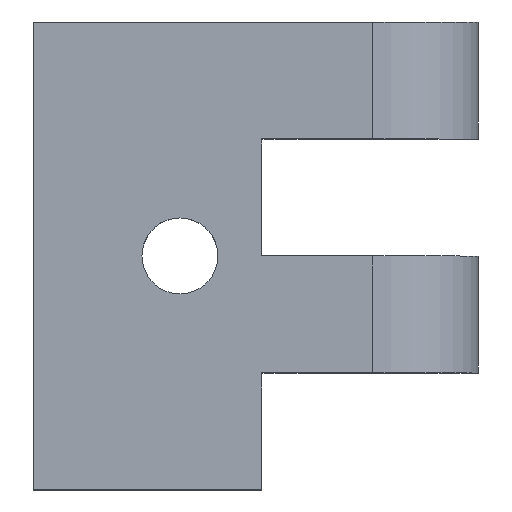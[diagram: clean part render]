
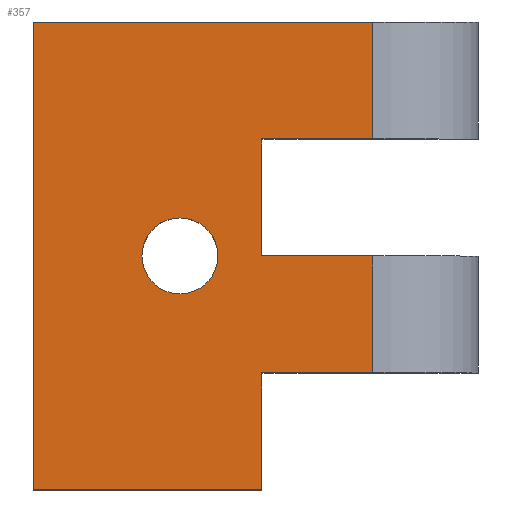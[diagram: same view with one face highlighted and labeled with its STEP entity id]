
A CAD part, top view. The second image highlights one B-rep face of the part: STEP entity #357.
In plain terms, the highlighted planar face has unit normal (0, 0, 1).
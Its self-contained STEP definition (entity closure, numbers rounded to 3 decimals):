
#13=DIRECTION('',(1.,0.,0.));
#14=VECTOR('',#13,19.5);
#15=CARTESIAN_POINT('',(-29.,-20.,0.));
#16=LINE('',#15,#14);
#21=DIRECTION('',(-1.,0.,0.));
#22=VECTOR('',#21,9.5);
#23=CARTESIAN_POINT('',(0.,10.,0.));
#24=LINE('',#23,#22);
#25=DIRECTION('',(0.,-1.,0.));
#26=VECTOR('',#25,10.);
#27=CARTESIAN_POINT('',(-9.5,10.,0.));
#28=LINE('',#27,#26);
#29=DIRECTION('',(-1.,0.,0.));
#30=VECTOR('',#29,9.5);
#31=CARTESIAN_POINT('',(0.,0.,0.));
#32=LINE('',#31,#30);
#33=DIRECTION('',(-1.,0.,0.));
#34=VECTOR('',#33,9.5);
#35=CARTESIAN_POINT('',(0.,-10.,0.));
#36=LINE('',#35,#34);
#37=DIRECTION('',(0.,1.,0.));
#38=VECTOR('',#37,10.);
#39=CARTESIAN_POINT('',(-9.5,-20.,0.));
#40=LINE('',#39,#38);
#41=DIRECTION('',(0.,1.,0.));
#42=VECTOR('',#41,40.);
#43=CARTESIAN_POINT('',(-29.,-20.,0.));
#44=LINE('',#43,#42);
#45=CARTESIAN_POINT('',(-16.5,0.,0.));
#46=DIRECTION('',(0.,0.,-1.));
#47=DIRECTION('',(1.,0.,0.));
#48=AXIS2_PLACEMENT_3D('',#45,#46,#47);
#50=CARTESIAN_POINT('',(-16.5,0.,0.));
#51=DIRECTION('',(0.,0.,-1.));
#52=DIRECTION('',(-1.,0.,0.));
#53=AXIS2_PLACEMENT_3D('',#50,#51,#52);
#70=DIRECTION('',(0.,1.,0.));
#71=VECTOR('',#70,10.);
#72=CARTESIAN_POINT('',(0.,10.,0.));
#73=LINE('',#72,#71);
#84=DIRECTION('',(0.,1.,0.));
#85=VECTOR('',#84,10.);
#86=CARTESIAN_POINT('',(0.,-10.,0.));
#87=LINE('',#86,#85);
#88=DIRECTION('',(1.,0.,0.));
#89=VECTOR('',#88,29.);
#90=CARTESIAN_POINT('',(-29.,20.,0.));
#91=LINE('',#90,#89);
#228=CARTESIAN_POINT('',(-29.,-20.,0.));
#230=VERTEX_POINT('',#228);
#231=CARTESIAN_POINT('',(-29.,20.,0.));
#232=CARTESIAN_POINT('',(0.,20.,0.));
#233=VERTEX_POINT('',#231);
#234=VERTEX_POINT('',#232);
#243=CARTESIAN_POINT('',(-9.5,-20.,0.));
#245=VERTEX_POINT('',#243);
#247=CARTESIAN_POINT('',(0.,10.,0.));
#248=CARTESIAN_POINT('',(-9.5,10.,0.));
#249=VERTEX_POINT('',#247);
#250=VERTEX_POINT('',#248);
#251=CARTESIAN_POINT('',(-9.5,0.,0.));
#252=VERTEX_POINT('',#251);
#253=CARTESIAN_POINT('',(0.,0.,0.));
#254=VERTEX_POINT('',#253);
#255=CARTESIAN_POINT('',(0.,-10.,0.));
#256=CARTESIAN_POINT('',(-9.5,-10.,0.));
#257=VERTEX_POINT('',#255);
#258=VERTEX_POINT('',#256);
#283=CARTESIAN_POINT('',(-13.25,0.,0.));
#284=CARTESIAN_POINT('',(-19.75,0.,0.));
#285=VERTEX_POINT('',#283);
#286=VERTEX_POINT('',#284);
#326=CARTESIAN_POINT('',(-29.,-20.,0.));
#327=DIRECTION('',(0.,0.,1.));
#328=DIRECTION('',(1.,0.,0.));
#329=AXIS2_PLACEMENT_3D('',#326,#327,#328);
#330=PLANE('',#329);
#332=ORIENTED_EDGE('',*,*,#331,.T.);
#334=ORIENTED_EDGE('',*,*,#333,.T.);
#336=ORIENTED_EDGE('',*,*,#335,.F.);
#338=ORIENTED_EDGE('',*,*,#337,.F.);
#340=ORIENTED_EDGE('',*,*,#339,.T.);
#341=ORIENTED_EDGE('',*,*,#317,.F.);
#342=ORIENTED_EDGE('',*,*,#306,.F.);
#344=ORIENTED_EDGE('',*,*,#343,.T.);
#346=ORIENTED_EDGE('',*,*,#345,.T.);
#348=ORIENTED_EDGE('',*,*,#347,.F.);
#349=EDGE_LOOP('',(#332,#334,#336,#338,#340,#341,#342,#344,#346,#348));
#350=FACE_OUTER_BOUND('',#349,.F.);
#352=ORIENTED_EDGE('',*,*,#351,.F.);
#354=ORIENTED_EDGE('',*,*,#353,.F.);
#355=EDGE_LOOP('',(#352,#354));
#356=FACE_BOUND('',#355,.F.);
#357=ADVANCED_FACE('',(#350,#356),#330,.T.);
#49=CIRCLE('',#48,3.25);
#54=CIRCLE('',#53,3.25);
#306=EDGE_CURVE('',#230,#245,#16,.T.);
#317=EDGE_CURVE('',#245,#258,#40,.T.);
#331=EDGE_CURVE('',#249,#250,#24,.T.);
#333=EDGE_CURVE('',#250,#252,#28,.T.);
#335=EDGE_CURVE('',#254,#252,#32,.T.);
#337=EDGE_CURVE('',#257,#254,#87,.T.);
#339=EDGE_CURVE('',#257,#258,#36,.T.);
#343=EDGE_CURVE('',#230,#233,#44,.T.);
#345=EDGE_CURVE('',#233,#234,#91,.T.);
#347=EDGE_CURVE('',#249,#234,#73,.T.);
#351=EDGE_CURVE('',#285,#286,#49,.T.);
#353=EDGE_CURVE('',#286,#285,#54,.T.);
